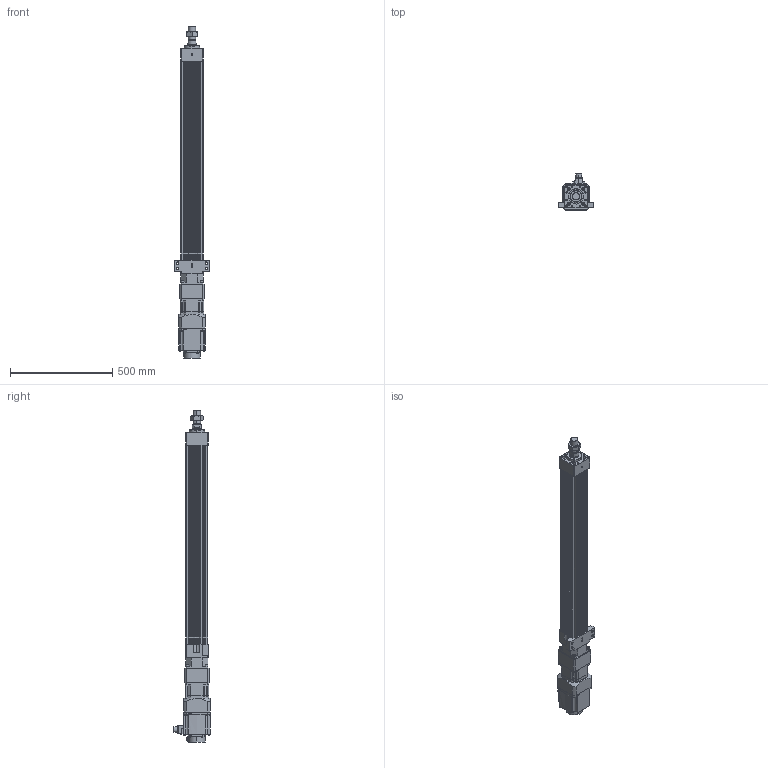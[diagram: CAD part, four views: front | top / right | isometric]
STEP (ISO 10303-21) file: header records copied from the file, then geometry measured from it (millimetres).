
FILE_DESCRIPTION (( 'STEP AP203' ), '1' );
FILE_NAME ('HES110NS(HS)-S800-W015G00-M-FFC.STEP', '2023-01-28T05:51:58', ( 'tms' ), ( '' ), 'SwSTEP 2.0', 'SolidWorks 2013', '' );
FILE_SCHEMA (( 'CONFIG_CONTROL_DESIGN' ));
Length unit declared in the file: millimetre
Products named in the file (8): HG-SR152; HES110 ROD M ST800; HES110-S800-G120-FFC; HES110NS(HS)-S800-W015G00-M-FFC; P0401400706; AB115-003[HG-SR152]; AB1151; M36X1.5P
Assembly tree (7 placements, depth 3):
  HES110NS(HS)-S800-W015G00-M-FFC
    HES110-S800-G120-FFC
    HES110 ROD M ST800
    M36X1.5P
    AB115-003[HG-SR152]
      AB1151
      P0401400706
    HG-SR152
Bounding box: 170 x 177.49 x 1621.5 mm (x, y, z)
Volume: 10328911.1 mm3; surface area: 1497509.1 mm2
Topology: 4 solids, 15 shells, 1222 faces, 3083 edges, 1988 vertices
Faces by surface type: plane 557, cylinder 549, cone 104, bspline 8, torus 4
Entity records: 38313 total; most frequent: CARTESIAN_POINT 7246, DIRECTION 6648, ORIENTED_EDGE 6070, EDGE_CURVE 3045, AXIS2_PLACEMENT_3D 2450, VERTEX_POINT 1988, LINE 1748, VECTOR 1748
